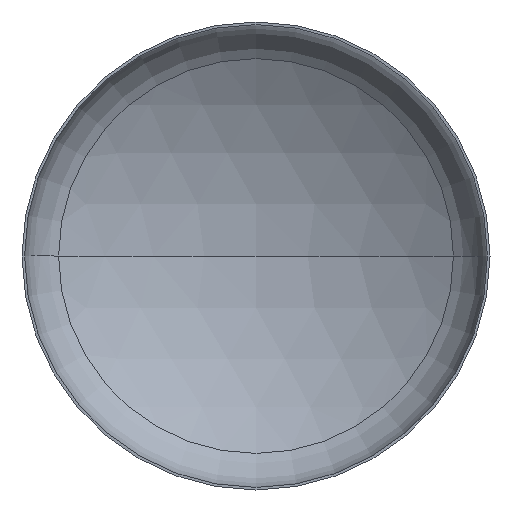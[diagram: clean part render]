
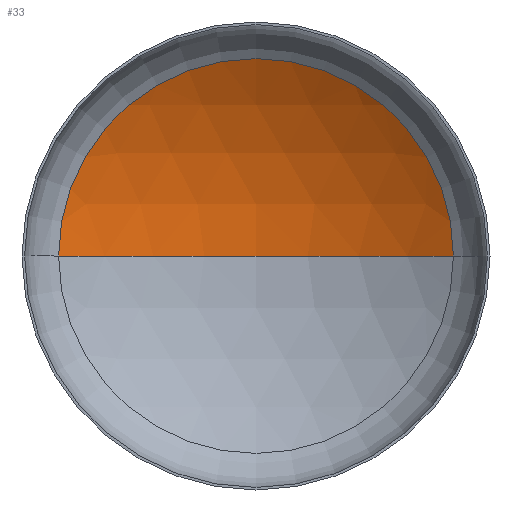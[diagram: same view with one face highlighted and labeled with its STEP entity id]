
A CAD part, front view. The second image highlights one B-rep face of the part: STEP entity #33.
In plain terms, the highlighted spherical face has radius 3200 mm.
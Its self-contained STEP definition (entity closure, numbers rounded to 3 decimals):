
#6 = AXIS2_PLACEMENT_3D ( 'NONE', #85, #266, #406 ) ;
#9 = FACE_OUTER_BOUND ( 'NONE', #232, .T. ) ;
#10 = AXIS2_PLACEMENT_3D ( 'NONE', #45, #268, #86 ) ;
#13 = CARTESIAN_POINT ( 'NONE',  ( -1687.273, 592.563, 0. ) ) ;
#15 = AXIS2_PLACEMENT_3D ( 'NONE', #143, #120, #124 ) ;
#16 = CIRCLE ( 'NONE', #10, 1687.273 ) ;
#28 = SPHERICAL_SURFACE ( 'NONE', #91, 3200. ) ;
#33 = ADVANCED_FACE ( 'NONE', ( #9 ), #28, .F. ) ;
#45 = CARTESIAN_POINT ( 'NONE',  ( 0., 592.563, 0. ) ) ;
#55 = VERTEX_POINT ( 'NONE', #224 ) ;
#85 = CARTESIAN_POINT ( 'NONE',  ( 0., -2126.464, 0. ) ) ;
#86 = DIRECTION ( 'NONE',  ( 1., 0., 0. ) ) ;
#91 = AXIS2_PLACEMENT_3D ( 'NONE', #219, #252, #251 ) ;
#120 = DIRECTION ( 'NONE',  ( 0., 0., 1. ) ) ;
#124 = DIRECTION ( 'NONE',  ( 1., 0., 0. ) ) ;
#143 = CARTESIAN_POINT ( 'NONE',  ( 0., -2126.464, 0. ) ) ;
#166 = VERTEX_POINT ( 'NONE', #187 ) ;
#187 = CARTESIAN_POINT ( 'NONE',  ( 0., 1073.536, 0. ) ) ;
#201 = CIRCLE ( 'NONE', #6, 3200. ) ;
#219 = CARTESIAN_POINT ( 'NONE',  ( 0., -2126.464, 0. ) ) ;
#224 = CARTESIAN_POINT ( 'NONE',  ( 1687.273, 592.563, 0. ) ) ;
#232 = EDGE_LOOP ( 'NONE', ( #398, #405, #303 ) ) ;
#251 = DIRECTION ( 'NONE',  ( -1., 0., 0. ) ) ;
#252 = DIRECTION ( 'NONE',  ( 0., 0., -1. ) ) ;
#266 = DIRECTION ( 'NONE',  ( 0., 0., -1. ) ) ;
#268 = DIRECTION ( 'NONE',  ( 0., -1., 0. ) ) ;
#303 = ORIENTED_EDGE ( 'NONE', *, *, #370, .T. ) ;
#315 = VERTEX_POINT ( 'NONE', #13 ) ;
#350 = EDGE_CURVE ( 'NONE', #166, #315, #367, .T. ) ;
#366 = EDGE_CURVE ( 'NONE', #166, #55, #201, .T. ) ;
#367 = CIRCLE ( 'NONE', #15, 3200. ) ;
#370 = EDGE_CURVE ( 'NONE', #55, #315, #16, .T. ) ;
#398 = ORIENTED_EDGE ( 'NONE', *, *, #350, .F. ) ;
#405 = ORIENTED_EDGE ( 'NONE', *, *, #366, .T. ) ;
#406 = DIRECTION ( 'NONE',  ( -1., 0., 0. ) ) ;
